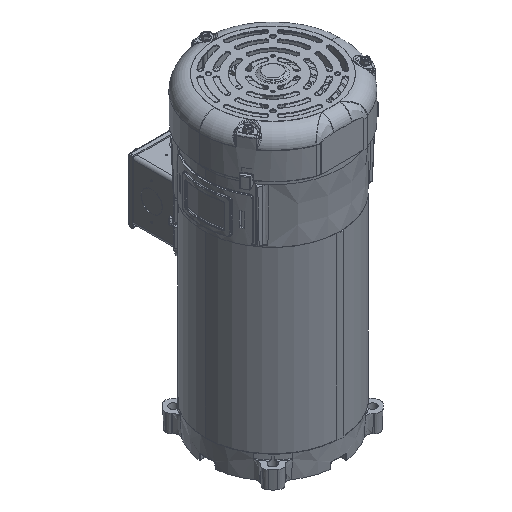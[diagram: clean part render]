
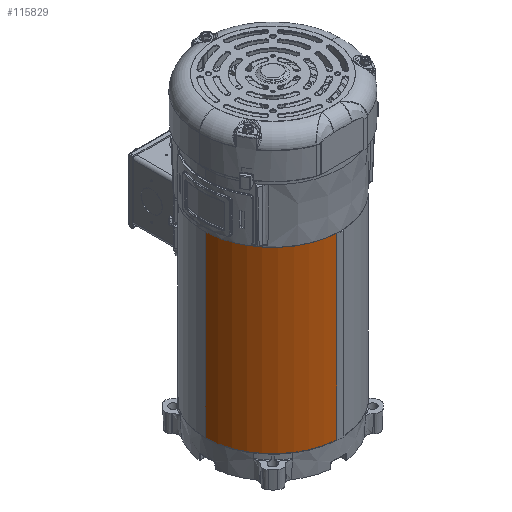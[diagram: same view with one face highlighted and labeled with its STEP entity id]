
A CAD part, isometric view. The second image highlights one B-rep face of the part: STEP entity #115829.
In plain terms, the highlighted cylindrical face has radius 71.438 mm (diameter 142.875 mm), a partial arc.
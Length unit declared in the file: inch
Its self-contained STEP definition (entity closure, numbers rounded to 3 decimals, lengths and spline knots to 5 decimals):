
#1856 = DIRECTION ( 'NONE',  ( -1., 0., 0. ) ) ;
#7928 = VERTEX_POINT ( 'NONE', #66455 ) ;
#8979 = EDGE_CURVE ( 'NONE', #55531, #75081, #105032, .T. ) ;
#9102 = ORIENTED_EDGE ( 'NONE', *, *, #115936, .T. ) ;
#12811 = ORIENTED_EDGE ( 'NONE', *, *, #77134, .T. ) ;
#23767 = ORIENTED_EDGE ( 'NONE', *, *, #30522, .F. ) ;
#30522 = EDGE_CURVE ( 'NONE', #55531, #47913, #115133, .T. ) ;
#34104 = CARTESIAN_POINT ( 'NONE',  ( -2.8125, 0., 10.53056 ) ) ;
#36468 = VECTOR ( 'NONE', #94355, 39.37008 ) ;
#43267 = FACE_OUTER_BOUND ( 'NONE', #148527, .T. ) ;
#47913 = VERTEX_POINT ( 'NONE', #165708 ) ;
#55531 = VERTEX_POINT ( 'NONE', #81057 ) ;
#60447 = AXIS2_PLACEMENT_3D ( 'NONE', #113847, #163462, #139725 ) ;
#62442 = CARTESIAN_POINT ( 'NONE',  ( -2.8125, 0., 10.57556 ) ) ;
#66455 = CARTESIAN_POINT ( 'NONE',  ( -2.8125, 0., 3.06056 ) ) ;
#68281 = CIRCLE ( 'NONE', #60447, 2.8125 ) ;
#75081 = VERTEX_POINT ( 'NONE', #34104 ) ;
#77134 = EDGE_CURVE ( 'NONE', #7928, #47913, #68281, .T. ) ;
#81057 = CARTESIAN_POINT ( 'NONE',  ( -0.15569, -2.80819, 10.53056 ) ) ;
#84400 = CARTESIAN_POINT ( 'NONE',  ( 0., 0., 10.57556 ) ) ;
#92839 = ORIENTED_EDGE ( 'NONE', *, *, #8979, .T. ) ;
#94355 = DIRECTION ( 'NONE',  ( 0., 0., -1. ) ) ;
#103020 = CARTESIAN_POINT ( 'NONE',  ( 0., 0., 10.53056 ) ) ;
#105032 = CIRCLE ( 'NONE', #163954, 2.8125 ) ;
#106757 = CARTESIAN_POINT ( 'NONE',  ( -0.15569, -2.80819, 10.57556 ) ) ;
#113847 = CARTESIAN_POINT ( 'NONE',  ( 0., 0., 3.06056 ) ) ;
#115133 = LINE ( 'NONE', #106757, #36468 ) ;
#115829 = ADVANCED_FACE ( 'NONE', ( #43267 ), #119699, .T. ) ;
#115936 = EDGE_CURVE ( 'NONE', #75081, #7928, #145877, .T. ) ;
#119699 = CYLINDRICAL_SURFACE ( 'NONE', #140478, 2.8125 ) ;
#123807 = DIRECTION ( 'NONE',  ( -1., 0., 0. ) ) ;
#128964 = DIRECTION ( 'NONE',  ( 0., 0., -1. ) ) ;
#139725 = DIRECTION ( 'NONE',  ( 1., 0., 0. ) ) ;
#140478 = AXIS2_PLACEMENT_3D ( 'NONE', #84400, #162618, #123807 ) ;
#141070 = DIRECTION ( 'NONE',  ( 0., 0., -1. ) ) ;
#145877 = LINE ( 'NONE', #62442, #162232 ) ;
#148527 = EDGE_LOOP ( 'NONE', ( #92839, #9102, #12811, #23767 ) ) ;
#162232 = VECTOR ( 'NONE', #141070, 39.37008 ) ;
#162618 = DIRECTION ( 'NONE',  ( 0., 0., -1. ) ) ;
#163462 = DIRECTION ( 'NONE',  ( 0., 0., 1. ) ) ;
#163954 = AXIS2_PLACEMENT_3D ( 'NONE', #103020, #128964, #1856 ) ;
#165708 = CARTESIAN_POINT ( 'NONE',  ( -0.15569, -2.80819, 3.06056 ) ) ;
